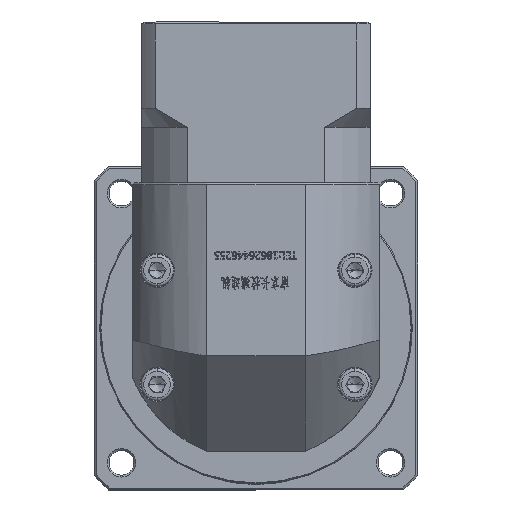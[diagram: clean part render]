
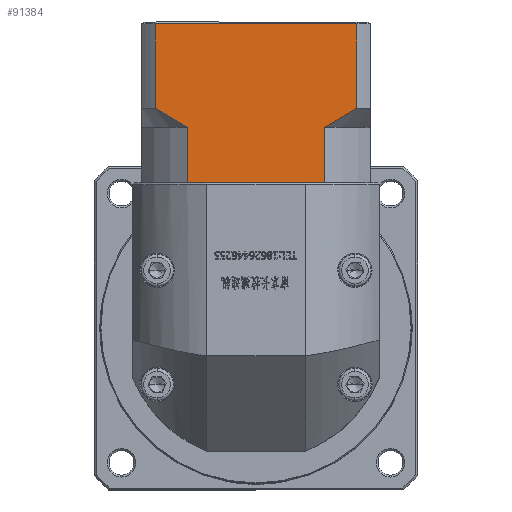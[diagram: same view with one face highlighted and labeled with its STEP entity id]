
A CAD part, top view. The second image highlights one B-rep face of the part: STEP entity #91384.
In plain terms, the highlighted planar face has unit normal (0, 0, 1).
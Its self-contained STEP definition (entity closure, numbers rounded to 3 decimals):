
#502 = CARTESIAN_POINT ( 'NONE',  ( -33.225, 52.759, 245.652 ) ) ;
#2568 = DIRECTION ( 'NONE',  ( 1., 0., 0. ) ) ;
#6386 = FACE_OUTER_BOUND ( 'NONE', #125195, .T. ) ;
#10135 = CARTESIAN_POINT ( 'NONE',  ( -45.197, 38.259, 245.652 ) ) ;
#12947 = LINE ( 'NONE', #10135, #117244 ) ;
#13349 = EDGE_CURVE ( 'NONE', #130555, #162385, #77444, .T. ) ;
#14312 = EDGE_CURVE ( 'NONE', #97882, #171831, #12947, .T. ) ;
#16943 = EDGE_CURVE ( 'NONE', #87755, #142325, #166963, .T. ) ;
#17342 = CARTESIAN_POINT ( 'NONE',  ( 8.518, 55.983, 245.652 ) ) ;
#20194 = ORIENTED_EDGE ( 'NONE', *, *, #44860, .F. ) ;
#20449 = CARTESIAN_POINT ( 'NONE',  ( 2.831, 52.759, 245.652 ) ) ;
#24627 = DIRECTION ( 'NONE',  ( 0., 0., -1. ) ) ;
#30972 = CARTESIAN_POINT ( 'NONE',  ( 11.261, 57.759, 245.652 ) ) ;
#32797 = ORIENTED_EDGE ( 'NONE', *, *, #75482, .T. ) ;
#33907 = VECTOR ( 'NONE', #87641, 1000. ) ;
#36008 = LINE ( 'NONE', #168714, #140281 ) ;
#36345 = CARTESIAN_POINT ( 'NONE',  ( 11.261, 57.759, 245.652 ) ) ;
#41223 = VECTOR ( 'NONE', #150228, 1000. ) ;
#42520 = ORIENTED_EDGE ( 'NONE', *, *, #16943, .T. ) ;
#42988 = CARTESIAN_POINT ( 'NONE',  ( 1.84, 38.259, 245.652 ) ) ;
#44077 = CARTESIAN_POINT ( 'NONE',  ( 5.713, 54.309, 245.652 ) ) ;
#44860 = EDGE_CURVE ( 'NONE', #158200, #142325, #36008, .T. ) ;
#46575 = CARTESIAN_POINT ( 'NONE',  ( -45.197, 79.959, 245.652 ) ) ;
#46625 = VECTOR ( 'NONE', #128076, 1000. ) ;
#50873 = LINE ( 'NONE', #46575, #46625 ) ;
#51382 = PLANE ( 'NONE',  #72453 ) ;
#69838 = CARTESIAN_POINT ( 'NONE',  ( 2.831, 38.259, 245.652 ) ) ;
#71034 = LINE ( 'NONE', #97715, #175296 ) ;
#71284 = CARTESIAN_POINT ( 'NONE',  ( -33.225, 52.759, 245.652 ) ) ;
#71404 = CARTESIAN_POINT ( 'NONE',  ( 2.831, 52.759, 245.652 ) ) ;
#72453 = AXIS2_PLACEMENT_3D ( 'NONE', #106110, #24627, #119800 ) ;
#73235 = VERTEX_POINT ( 'NONE', #176591 ) ;
#74124 = DIRECTION ( 'NONE',  ( 0., -1., 0. ) ) ;
#75482 = EDGE_CURVE ( 'NONE', #73235, #121092, #123120, .T. ) ;
#77444 = LINE ( 'NONE', #95533, #41223 ) ;
#78319 = DIRECTION ( 'NONE',  ( 1., 0., 0. ) ) ;
#81089 = VECTOR ( 'NONE', #164258, 1000. ) ;
#81976 = CARTESIAN_POINT ( 'NONE',  ( -34.677, 53.507, 245.652 ) ) ;
#82685 = VECTOR ( 'NONE', #78319, 1000. ) ;
#86571 = ORIENTED_EDGE ( 'NONE', *, *, #97917, .T. ) ;
#87641 = DIRECTION ( 'NONE',  ( 0., -1., 0. ) ) ;
#87755 = VERTEX_POINT ( 'NONE', #140898 ) ;
#91384 = ADVANCED_FACE ( 'NONE', ( #6386 ), #51382, .F. ) ;
#95533 = CARTESIAN_POINT ( 'NONE',  ( -41.654, 52.759, 245.652 ) ) ;
#97715 = CARTESIAN_POINT ( 'NONE',  ( -45.197, 38.259, 245.652 ) ) ;
#97882 = VERTEX_POINT ( 'NONE', #42988 ) ;
#97917 = EDGE_CURVE ( 'NONE', #121092, #97882, #71034, .T. ) ;
#105291 = DIRECTION ( 'NONE',  ( 1., 0., 0. ) ) ;
#105398 = ORIENTED_EDGE ( 'NONE', *, *, #108740, .T. ) ;
#106110 = CARTESIAN_POINT ( 'NONE',  ( -45.197, 80.459, 245.652 ) ) ;
#107778 = ORIENTED_EDGE ( 'NONE', *, *, #136830, .T. ) ;
#108740 = EDGE_CURVE ( 'NONE', #130555, #145422, #136658, .T. ) ;
#108755 = CARTESIAN_POINT ( 'NONE',  ( -40.295, 56.859, 245.652 ) ) ;
#110026 = CARTESIAN_POINT ( 'NONE',  ( -32.234, 38.259, 245.652 ) ) ;
#112465 = CARTESIAN_POINT ( 'NONE',  ( 9.898, 56.857, 245.652 ) ) ;
#115960 = ORIENTED_EDGE ( 'NONE', *, *, #14312, .T. ) ;
#116226 = ORIENTED_EDGE ( 'NONE', *, *, #13349, .F. ) ;
#117244 = VECTOR ( 'NONE', #105291, 1000. ) ;
#119660 = EDGE_CURVE ( 'NONE', #73235, #145422, #153468, .T. ) ;
#119800 = DIRECTION ( 'NONE',  ( 0., 1., 0. ) ) ;
#121092 = VERTEX_POINT ( 'NONE', #110026 ) ;
#122397 = CARTESIAN_POINT ( 'NONE',  ( -38.916, 55.986, 245.652 ) ) ;
#123120 = LINE ( 'NONE', #146154, #82685 ) ;
#123236 = CARTESIAN_POINT ( 'NONE',  ( -33.225, 52.759, 245.652 ) ) ;
#125195 = EDGE_LOOP ( 'NONE', ( #20194, #107778, #116226, #105398, #125895, #32797, #86571, #115960, #174411, #42520 ) ) ;
#125895 = ORIENTED_EDGE ( 'NONE', *, *, #119660, .F. ) ;
#127935 = EDGE_CURVE ( 'NONE', #87755, #171831, #142476, .T. ) ;
#128076 = DIRECTION ( 'NONE',  ( -1., 0., 0. ) ) ;
#130555 = VERTEX_POINT ( 'NONE', #162074 ) ;
#136658 = B_SPLINE_CURVE_WITH_KNOTS ( 'NONE', 3,
 ( #149753, #108755, #122397, #163450, #81976, #502 ),
 .UNSPECIFIED., .F., .F.,
 ( 4, 2, 4 ),
 ( 0.052, 0.057, 0.062 ),
 .UNSPECIFIED. ) ;
#136830 = EDGE_CURVE ( 'NONE', #158200, #162385, #50873, .T. ) ;
#140281 = VECTOR ( 'NONE', #74124, 1000. ) ;
#140898 = CARTESIAN_POINT ( 'NONE',  ( 2.831, 52.759, 245.652 ) ) ;
#142325 = VERTEX_POINT ( 'NONE', #36345 ) ;
#142476 = LINE ( 'NONE', #20449, #33907 ) ;
#145422 = VERTEX_POINT ( 'NONE', #71284 ) ;
#145753 = CARTESIAN_POINT ( 'NONE',  ( 11.261, 79.959, 245.652 ) ) ;
#146154 = CARTESIAN_POINT ( 'NONE',  ( -45.197, 38.259, 245.652 ) ) ;
#149753 = CARTESIAN_POINT ( 'NONE',  ( -41.654, 57.759, 245.652 ) ) ;
#150228 = DIRECTION ( 'NONE',  ( 0., 1., 0. ) ) ;
#152857 = CARTESIAN_POINT ( 'NONE',  ( 4.287, 53.509, 245.652 ) ) ;
#153468 = LINE ( 'NONE', #123236, #81089 ) ;
#158200 = VERTEX_POINT ( 'NONE', #145753 ) ;
#162074 = CARTESIAN_POINT ( 'NONE',  ( -41.654, 57.759, 245.652 ) ) ;
#162385 = VERTEX_POINT ( 'NONE', #175114 ) ;
#163450 = CARTESIAN_POINT ( 'NONE',  ( -36.108, 54.31, 245.652 ) ) ;
#164258 = DIRECTION ( 'NONE',  ( 0., 1., 0. ) ) ;
#166963 = B_SPLINE_CURVE_WITH_KNOTS ( 'NONE', 3,
 ( #71404, #152857, #44077, #17342, #112465, #30972 ),
 .UNSPECIFIED., .F., .F.,
 ( 4, 2, 4 ),
 ( 0.1, 0.104, 0.109 ),
 .UNSPECIFIED. ) ;
#168714 = CARTESIAN_POINT ( 'NONE',  ( 11.261, 52.759, 245.652 ) ) ;
#171831 = VERTEX_POINT ( 'NONE', #69838 ) ;
#174411 = ORIENTED_EDGE ( 'NONE', *, *, #127935, .F. ) ;
#175114 = CARTESIAN_POINT ( 'NONE',  ( -41.654, 79.959, 245.652 ) ) ;
#175296 = VECTOR ( 'NONE', #2568, 1000. ) ;
#176591 = CARTESIAN_POINT ( 'NONE',  ( -33.225, 38.259, 245.652 ) ) ;
